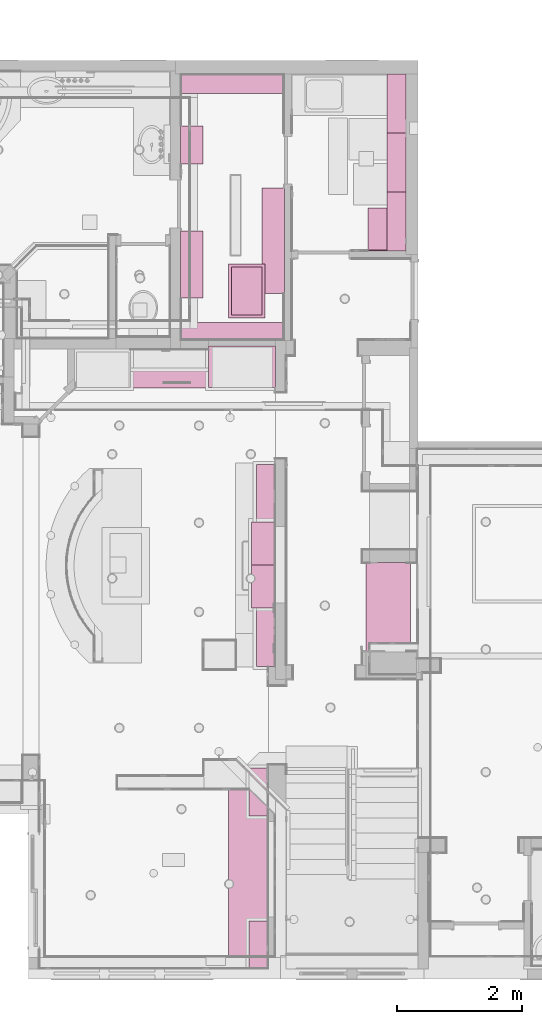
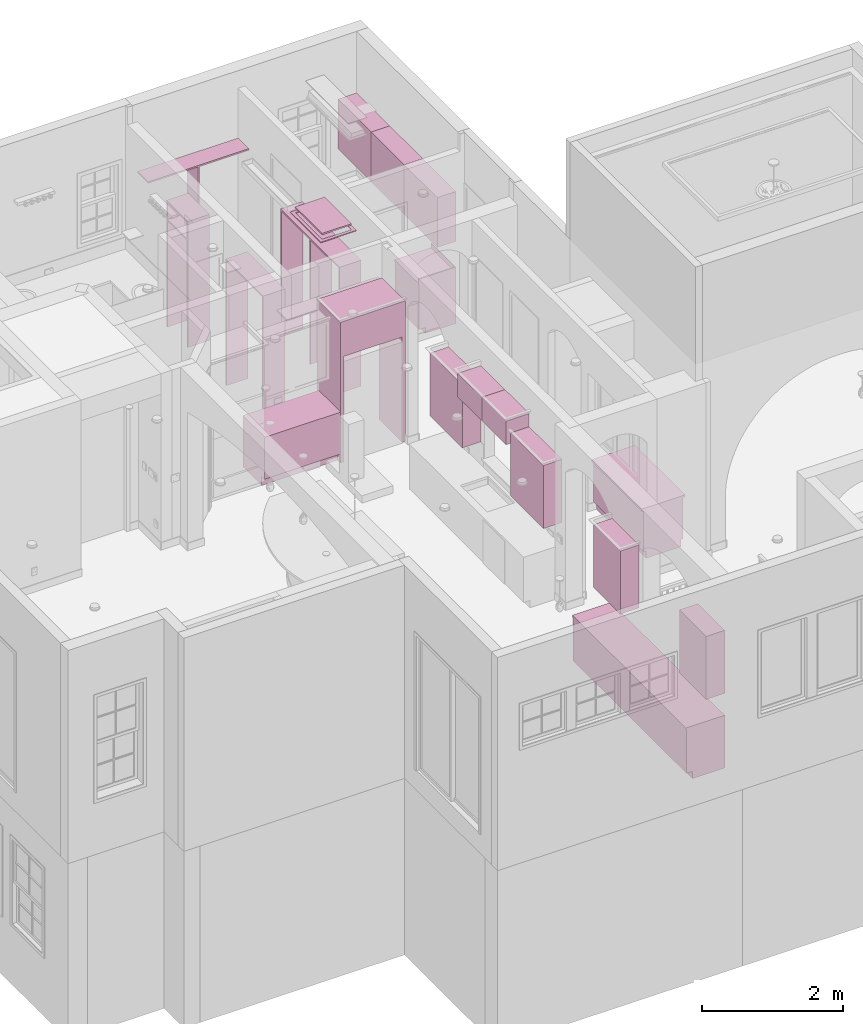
# One storey, part 56 of 81: 20 furnishings.
"""IFC2X3 building model written with IfcOpenShell, lengths in feet."""

from ifc_helpers import new_model, entity, si_unit, converted_unit, derived_unit, direction, frame, frame_2d, origin, origin_2d_with_axis, place, context, subcontext, project, spatial, polyline, rectangle, outline, extrude, source, transform, mapped, material, type_object, type_shapes, element, save


model = new_model("IFC2X3")

# Units and contexts
model_context = context("Model", 3, precision=0.0001, world=origin(), true_north=direction((6.12303176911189e-17, 1.0)))
body_context = subcontext(model_context, "Body", "Model", "MODEL_VIEW")
ifc_project = project(units=[converted_unit("LENGTHUNIT", "FOOT", entity("IfcRatioMeasure", 0.3048), si_unit("LENGTHUNIT", "METRE"), dimensions=[1, 0, 0, 0, 0, 0, 0]), converted_unit("AREAUNIT", "SQUARE FOOT", entity("IfcRatioMeasure", 0.09290304), si_unit("AREAUNIT", "SQUARE_METRE"), dimensions=[2, 0, 0, 0, 0, 0, 0]), converted_unit("VOLUMEUNIT", "CUBIC FOOT", entity("IfcRatioMeasure", 0.028316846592), si_unit("VOLUMEUNIT", "CUBIC_METRE"), dimensions=[3, 0, 0, 0, 0, 0, 0]), converted_unit("PLANEANGLEUNIT", "DEGREE", entity("IfcRatioMeasure", 0.0174532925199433), si_unit("PLANEANGLEUNIT", "RADIAN"), dimensions=[0, 0, 0, 0, 0, 0, 0]), si_unit("MASSUNIT", "GRAM", prefix="KILO"), derived_unit("MASSDENSITYUNIT", [(si_unit("MASSUNIT", "GRAM", prefix="KILO"), 1), (si_unit("LENGTHUNIT", "METRE"), -3)]), derived_unit("MOMENTOFINERTIAUNIT", [(si_unit("LENGTHUNIT", "METRE"), 4)]), si_unit("TIMEUNIT", "SECOND"), si_unit("FREQUENCYUNIT", "HERTZ"), si_unit("THERMODYNAMICTEMPERATUREUNIT", "DEGREE_CELSIUS"), derived_unit("THERMALTRANSMITTANCEUNIT", [(si_unit("MASSUNIT", "GRAM", prefix="KILO"), 1), (si_unit("THERMODYNAMICTEMPERATUREUNIT", "KELVIN"), -1), (si_unit("TIMEUNIT", "SECOND"), -3)]), derived_unit("VOLUMETRICFLOWRATEUNIT", [(si_unit("LENGTHUNIT", "METRE"), 3), (si_unit("TIMEUNIT", "SECOND"), -1)]), si_unit("ELECTRICCURRENTUNIT", "AMPERE"), si_unit("ELECTRICVOLTAGEUNIT", "VOLT"), si_unit("POWERUNIT", "WATT"), si_unit("FORCEUNIT", "NEWTON"), si_unit("ILLUMINANCEUNIT", "LUX"), si_unit("LUMINOUSFLUXUNIT", "LUMEN"), si_unit("LUMINOUSINTENSITYUNIT", "CANDELA"), derived_unit("USERDEFINED", [(si_unit("MASSUNIT", "GRAM", prefix="KILO"), -1), (si_unit("LENGTHUNIT", "METRE"), -2), (si_unit("TIMEUNIT", "SECOND"), 3), (si_unit("LUMINOUSFLUXUNIT", "LUMEN"), 1)]), derived_unit("LINEARVELOCITYUNIT", [(si_unit("LENGTHUNIT", "METRE"), 1), (si_unit("TIMEUNIT", "SECOND"), -1)]), si_unit("PRESSUREUNIT", "PASCAL"), derived_unit("USERDEFINED", [(si_unit("LENGTHUNIT", "METRE"), -2), (si_unit("MASSUNIT", "GRAM", prefix="KILO"), 1), (si_unit("TIMEUNIT", "SECOND"), -2)]), derived_unit("LINEARFORCEUNIT", [(si_unit("MASSUNIT", "GRAM", prefix="KILO"), 1), (si_unit("LENGTHUNIT", "METRE"), 1), (si_unit("TIMEUNIT", "SECOND"), -2), (si_unit("LENGTHUNIT", "METRE"), -1)]), derived_unit("PLANARFORCEUNIT", [(si_unit("MASSUNIT", "GRAM", prefix="KILO"), 1), (si_unit("LENGTHUNIT", "METRE"), 1), (si_unit("TIMEUNIT", "SECOND"), -2), (si_unit("LENGTHUNIT", "METRE"), -2)])], contexts=[model_context])

# Site, building, storey
site_placement = place(None, origin())
site = spatial("IfcSite", under=ifc_project, at=site_placement, Name="Default", CompositionType="ELEMENT")
building_placement = place(site_placement, origin())
building = spatial("IfcBuilding", under=site, at=building_placement, CompositionType="ELEMENT")
storey_placement = place(building_placement, origin())
storey = spatial("IfcBuildingStorey", under=building, at=storey_placement, Name="First floor", CompositionType="ELEMENT", Elevation=0.0)

# Furnishings
ifc_material = material(Name="Default New Material")
furniture_type_1 = type_object("IfcFurnitureType", Name="Casework 7:Casework 7", material=ifc_material)
shared_shape_1 = source(origin(), body_context, "Body", "SweptSolid", [
    extrude(outline(polyline([(-1.77777777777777, -1.26388888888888), (1.09722222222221, -1.26388888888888), (1.09722222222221, 0.465277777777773), (0.680555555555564, 0.465277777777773), (0.680555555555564, 0.798611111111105), (-1.77777777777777, 0.798611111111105), (-1.77777777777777, -1.26388888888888)])), frame((11.2777777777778, 0.541666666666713, 11.7638888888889), z_axis=(0.0, 1.0, 0.0), x_axis=(0.0, 0.0, -1.0)), (0.0, 0.0, 1.0), 10.5625),
    extrude(rectangle(XDim=10.5833333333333, YDim=2.08333333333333, at=origin_2d_with_axis()), frame((11.5, 5.83333333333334, 13.5416666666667), z_axis=(0.0, 0.0, 1.0), x_axis=(0.0, -1.0, 0.0)), (0.0, 0.0, 1.0), 0.125),
])
type_shapes(furniture_type_1, [shared_shape_1])
furnishing_1_placement = place(storey_placement, origin())
element("IfcFurnishingElement", 1, at=furnishing_1_placement, inside=storey, type_object=furniture_type_1, material=ifc_material, Name="Casework 7:Casework 7", ObjectType="Casework 7:Casework 7", context=body_context, shape_type="MappedRepresentation", body=[
    mapped(shared_shape_1, transform((0.0, 0.0, 0.0), scale=1.0)),
])
furniture_type_2 = type_object("IfcFurnitureType", Name="Casework 8:Casework 8", material=ifc_material)
shared_shape_2 = source(origin(), body_context, "Body", "SweptSolid", [
    extrude(outline(polyline([(-1.75, -4.49609375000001), (1.75, -4.49609375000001), (1.75, 3.49869791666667), (1.58333333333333, 3.49869791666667), (1.58333333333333, -2.50130208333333), (-1.58333333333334, -2.50130208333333), (-1.58333333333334, 3.49869791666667), (-1.75, 3.49869791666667), (-1.75, -4.49609375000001)])), frame((11.1666666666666, 30.9583333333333, 14.1653645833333), z_axis=(0.0, 1.0, 0.0), x_axis=(1.0, 0.0, 0.0)), (0.0, 0.0, 1.0), 2.16666666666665),
])
type_shapes(furniture_type_2, [shared_shape_2])
furnishing_2_placement = place(storey_placement, origin())
element("IfcFurnishingElement", 2, at=furnishing_2_placement, inside=storey, type_object=furniture_type_2, material=ifc_material, Name="Casework 8:Casework 8", ObjectType="Casework 8:Casework 8", context=body_context, shape_type="MappedRepresentation", body=[
    mapped(shared_shape_2, transform((0.0, 0.0, 0.0), scale=1.0)),
])
furniture_type_3 = type_object("IfcFurnitureType", Name="Casework 10:Casework 10", material=ifc_material)
shared_shape_3 = source(origin(), body_context, "Body", "SweptSolid", [
    extrude(outline(polyline([(1.11458333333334, -0.937499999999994), (1.53645833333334, -0.937499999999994), (1.53645833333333, 0.937500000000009), (1.11458333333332, 0.937500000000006), (1.11458333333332, 1.06250000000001), (-1.21354166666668, 1.06249999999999), (-1.21354166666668, 1.16666666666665), (-1.33854166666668, 1.16666666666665), (-1.33854166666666, -1.16666666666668), (-1.21354166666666, -1.16666666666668), (-1.21354166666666, -1.06250000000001), (1.11458333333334, -1.06249999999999), (1.11458333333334, -0.937499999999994)])), frame((18.8125, 17.1246548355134, 12.203125), z_axis=(0.0, 1.0, 0.0), x_axis=(0.0, 0.0, -1.0)), (0.0, 0.0, 1.0), 4.66666666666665),
])
type_shapes(furniture_type_3, [shared_shape_3])
furnishing_3_placement = place(storey_placement, origin())
element("IfcFurnishingElement", 3, at=furnishing_3_placement, inside=storey, type_object=furniture_type_3, material=ifc_material, Name="Casework 10:Casework 10", ObjectType="Casework 10:Casework 10", context=body_context, shape_type="MappedRepresentation", body=[
    mapped(shared_shape_3, transform((0.0, 0.0, 0.0), scale=1.0)),
])
furniture_type_4 = type_object("IfcFurnitureType", Name="Casework 12:Casework 12", material=ifc_material)
shared_shape_4 = source(origin(), body_context, "Body", "SweptSolid", [
    extrude(outline(polyline([(-1.31944444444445, -0.763888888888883), (0.680555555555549, -0.763888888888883), (0.680555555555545, 1.48611111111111), (0.638888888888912, 1.48611111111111), (0.638888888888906, -0.722222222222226), (-1.31944444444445, -0.722222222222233), (-1.31944444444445, -0.763888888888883)])), frame((19.0694444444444, 38.8468770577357, 13.625)), (0.0, 0.0, 1.0), 0.25),
    extrude(rectangle(XDim=2.24999999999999, YDim=2.0, at=frame_2d((-3.5527136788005e-15, -3.5527136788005e-15), x_axis=(1.0, 0.0))), frame((18.75, 39.2079881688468, 13.5), z_axis=(0.0, 0.0, 1.0), x_axis=(0.0, -1.0, 0.0)), (0.0, 0.0, 1.0), 0.125),
    extrude(outline(polyline([(-1.20833333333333, -1.05555555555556), (0.4375, -1.05555555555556), (0.4375, -0.722222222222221), (0.770833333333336, -0.722222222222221), (0.770833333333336, 1.77777777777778), (-1.20833333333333, 1.77777777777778), (-1.20833333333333, -1.05555555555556)])), frame((18.5416666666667, 38.0829881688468, 11.7222222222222), z_axis=(0.0, 1.0, 0.0), x_axis=(-1.0, 0.0, 0.0)), (0.0, 0.0, 1.0), 2.24999999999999),
])
type_shapes(furniture_type_4, [shared_shape_4])
furnishing_4_placement = place(storey_placement, origin())
element("IfcFurnishingElement", 4, at=furnishing_4_placement, inside=storey, type_object=furniture_type_4, material=ifc_material, Name="Casework 12:Casework 12", ObjectType="Casework 12:Casework 12", context=body_context, shape_type="MappedRepresentation", body=[
    mapped(shared_shape_4, transform((0.0, 0.0, 0.0), scale=1.0)),
])
furniture_type_5 = type_object("IfcFurnitureType", Name="Casework_2:Casework_2", material=ifc_material)
shared_shape_5 = source(origin(), body_context, "Body", "SweptSolid", [
    extrude(rectangle(XDim=0.999999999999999, YDim=3.08333333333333, at=origin_2d_with_axis()), frame((0.0, 0.499999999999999, 0.0), z_axis=(0.0, 0.0, 1.0), x_axis=(0.0, 1.0, 0.0)), (0.0, 0.0, 1.0), 2.83333333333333),
])
type_shapes(furniture_type_5, [shared_shape_5])
for number, where, z_axis, x_axis, name in (
    (5, (19.75, 39.6246548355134, 15.3333333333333), (0.0, 0.0, 1.0), (0.0, 1.0, 0.0), "Casework_2:Casework_2"),
    (6, (19.75, 42.7079881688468, 15.3333333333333), (0.0, 0.0, 1.0), (0.0, 1.0, 0.0), "Casework_2:Casework_2"),
    (7, (19.75, 45.7913215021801, 15.3333333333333), (0.0, 0.0, 1.0), (0.0, 1.0, 0.0), "Casework_2:Casework_2"),
):
    element("IfcFurnishingElement", number, at=place(storey_placement, frame(where, z_axis=z_axis, x_axis=x_axis)), inside=storey, type_object=furniture_type_5, material=ifc_material, Name=name, ObjectType="Casework_2:Casework_2", context=body_context, shape_type="MappedRepresentation", body=[
        mapped(shared_shape_5, transform((0.0, 0.0, 0.0), scale=1.0)),
    ])
furniture_type_6 = type_object("IfcFurnitureType", Name="Casework 14:Casework 14", material=ifc_material)
shared_shape_6 = source(origin(), body_context, "Body", "SweptSolid", [
    extrude(outline(polyline([(-3.60416666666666, -1.7500000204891), (3.56250000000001, -1.7500000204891), (3.56250000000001, -1.66666668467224), (-3.52083333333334, -1.66666668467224), (-3.52083333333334, 1.66666672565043), (3.56250000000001, 1.66666672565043), (3.56250000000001, 1.7499999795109), (-3.60416666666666, 1.7499999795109), (-3.60416666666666, -1.7500000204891)])), frame((7.95833333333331, 37.3746548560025, 14.2291666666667), z_axis=(1.0, 0.0, 0.0), x_axis=(0.0, 0.0, -1.0)), (0.0, 0.0, 1.0), 1.16666666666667),
])
type_shapes(furniture_type_6, [shared_shape_6])
furnishing_5_placement = place(storey_placement, origin())
element("IfcFurnishingElement", 8, at=furnishing_5_placement, inside=storey, type_object=furniture_type_6, material=ifc_material, Name="Casework 14:Casework 14", ObjectType="Casework 14:Casework 14", context=body_context, shape_type="MappedRepresentation", body=[
    mapped(shared_shape_6, transform((0.0, 0.0, 0.0), scale=1.0)),
])
furniture_type_7 = type_object("IfcFurnitureType", Name="Casework 15:Casework 15", material=ifc_material)
shared_shape_7 = source(origin(), body_context, "Body", "SweptSolid", [
    extrude(rectangle(XDim=1.16666666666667, YDim=0.0833333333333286, at=frame_2d((-8.88178419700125e-16, 0.0), x_axis=(1.0, 0.0))), frame((12.7916666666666, 38.6246548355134, 10.6666666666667)), (0.0, 0.0, 1.0), 7.16666666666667),
    extrude(outline(polyline([(-2.75000003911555, -3.60416666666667), (2.74999996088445, -3.60416666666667), (2.74999996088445, 3.5625), (2.66666662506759, 3.5625), (2.66666662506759, -3.52083333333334), (-2.6666665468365, -3.52083333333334), (-2.6666665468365, 3.5625), (-2.75000003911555, 3.5625), (-2.75000003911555, -3.60416666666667)])), frame((12.2083333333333, 38.6246547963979, 14.2291666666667), z_axis=(1.0, 0.0, 0.0), x_axis=(0.0, -1.0, 0.0)), (0.0, 0.0, 1.0), 1.16666666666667),
])
type_shapes(furniture_type_7, [shared_shape_7])
furnishing_6_placement = place(storey_placement, origin())
element("IfcFurnishingElement", 9, at=furnishing_6_placement, inside=storey, type_object=furniture_type_7, material=ifc_material, Name="Casework 15:Casework 15", ObjectType="Casework 15:Casework 15", context=body_context, shape_type="MappedRepresentation", body=[
    mapped(shared_shape_7, transform((0.0, 0.0, 0.0), scale=1.0)),
])
furniture_type_8 = type_object("IfcFurnitureType", Name="Generic Models 26:Generic Models 26", material=ifc_material)
shared_shape_8 = source(origin(), body_context, "Body", "SweptSolid", [
    extrude(rectangle(XDim=5.41666666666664, YDim=0.916321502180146, at=frame_2d((4.44089209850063e-16, 0.0), x_axis=(1.0, 0.0))), frame((10.6666666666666, 33.8748274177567, 17.75)), (0.0, 0.0, 1.0), 0.0833333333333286),
])
type_shapes(furniture_type_8, [shared_shape_8])
furnishing_7_placement = place(storey_placement, origin())
element("IfcFurnishingElement", 10, at=furnishing_7_placement, inside=storey, type_object=furniture_type_8, material=ifc_material, Name="Generic Models 26:Generic Models 26", ObjectType="Generic Models 26:Generic Models 26", context=body_context, shape_type="MappedRepresentation", body=[
    mapped(shared_shape_8, transform((0.0, 0.0, 0.0), scale=1.0)),
])
furniture_type_9 = type_object("IfcFurnitureType", Name="Generic Models 27:Generic Models 26", material=ifc_material)
shared_shape_9 = source(origin(), body_context, "Body", "SweptSolid", [
    extrude(outline(polyline([(-5.33333333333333, 0.0416666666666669), (-5.33333333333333, -0.0416666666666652), (1.75000000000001, -0.0416666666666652), (1.75000000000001, -2.70833333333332), (1.83333333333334, -2.70833333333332), (1.83333333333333, 2.70833333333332), (1.75, 2.70833333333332), (1.75000000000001, 0.0416666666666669), (-5.33333333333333, 0.0416666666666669)])), frame((10.6666666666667, 46.3329881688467, 16.0), z_axis=(0.0, -1.0, 0.0), x_axis=(0.0, 0.0, 1.0)), (0.0, 0.0, -1.0), 1.00000000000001),
])
type_shapes(furniture_type_9, [shared_shape_9])
furnishing_8_placement = place(storey_placement, origin())
element("IfcFurnishingElement", 11, at=furnishing_8_placement, inside=storey, type_object=furniture_type_9, material=ifc_material, Name="Generic Models 27:Generic Models 26", ObjectType="Generic Models 27:Generic Models 26", context=body_context, shape_type="MappedRepresentation", body=[
    mapped(shared_shape_9, transform((0.0, 0.0, 0.0), scale=1.0)),
])
furniture_type_10 = type_object("IfcFurnitureType", Name="Casework 16:Casework 16", material=ifc_material)
shared_shape_10 = source(origin(), body_context, "Body", "SweptSolid", [
    extrude(outline(polyline([(-3.86458333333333, -0.999999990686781), (3.30208333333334, -0.999999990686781), (3.30208333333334, -0.916666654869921), (-2.73958333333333, -0.916666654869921), (-2.73958333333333, 0.916666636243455), (3.30208333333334, 0.916666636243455), (3.30208333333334, 1.00000000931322), (-3.86458333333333, 1.00000000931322), (-3.86458333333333, -0.999999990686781)]), holes=[polyline([(-3.78125, 0.916666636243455), (-2.82291666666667, 0.916666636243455), (-2.82291666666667, -0.916666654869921), (-3.78125, -0.916666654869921), (-3.78125, 0.916666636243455)])]), frame((7.95833333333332, 43.6246548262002, 13.96875), z_axis=(1.0, 0.0, 0.0), x_axis=(0.0, 0.0, -1.0)), (0.0, 0.0, 1.0), 1.16666666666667),
])
type_shapes(furniture_type_10, [shared_shape_10])
furnishing_9_placement = place(storey_placement, origin())
element("IfcFurnishingElement", 12, at=furnishing_9_placement, inside=storey, type_object=furniture_type_10, material=ifc_material, Name="Casework 16:Casework 16", ObjectType="Casework 16:Casework 16", context=body_context, shape_type="MappedRepresentation", body=[
    mapped(shared_shape_10, transform((0.0, 0.0, 0.0), scale=1.0)),
])
furniture_type_11 = type_object("IfcFurnitureType", Name="Casework_2:Casework_2", material=ifc_material)
shared_shape_11 = source(origin(), body_context, "Body", "SweptSolid", [
    extrude(rectangle(XDim=0.999999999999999, YDim=2.5, at=origin_2d_with_axis()), frame((0.0, 0.499999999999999, 0.0), z_axis=(0.0, 0.0, 1.0), x_axis=(0.0, 1.0, 0.0)), (0.0, 0.0, 1.0), 3.58333333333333),
])
type_shapes(furniture_type_11, [shared_shape_11])
for number, where, z_axis, x_axis, name in (
    (13, (12.5416666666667, 9.79132150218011, 14.9166666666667), (0.0, 0.0, 1.0), (0.0, 1.0, 0.0), "Casework_2:Casework_2"),
    (14, (12.5416666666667, 1.7916666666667, 14.9166666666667), (0.0, 0.0, 1.0), (0.0, 1.0, 0.0), "Casework_2:Casework_2"),
):
    element("IfcFurnishingElement", number, at=place(storey_placement, frame(where, z_axis=z_axis, x_axis=x_axis)), inside=storey, type_object=furniture_type_11, material=ifc_material, Name=name, ObjectType="Casework_2:Casework_2", context=body_context, shape_type="MappedRepresentation", body=[
        mapped(shared_shape_11, transform((0.0, 0.0, 0.0), scale=1.0)),
    ])
furniture_type_12 = type_object("IfcFurnitureType", Name="Casework_2:Casework_2", material=ifc_material)
shared_shape_12 = source(origin(), body_context, "Body", "SweptSolid", [
    extrude(rectangle(XDim=0.999999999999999, YDim=3.0, at=origin_2d_with_axis()), frame((0.0, 0.499999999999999, 0.0), z_axis=(0.0, 0.0, 1.0), x_axis=(0.0, 1.0, 0.0)), (0.0, 0.0, 1.0), 3.58333333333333),
])
type_shapes(furniture_type_12, [shared_shape_12])
furnishing_10_placement = place(storey_placement, frame((12.9166666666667, 25.4163215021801, 14.9166666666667), z_axis=(0.0, 0.0, 1.0), x_axis=(0.0, 1.0, 0.0)))
element("IfcFurnishingElement", 15, at=furnishing_10_placement, inside=storey, type_object=furniture_type_12, material=ifc_material, Name="Casework_2:Casework_2", ObjectType="Casework_2:Casework_2", context=body_context, shape_type="MappedRepresentation", body=[
    mapped(shared_shape_12, transform((0.0, 0.0, 0.0), scale=1.0)),
])
furniture_type_13 = type_object("IfcFurnitureType", Name="Casework_2:Casework_2", material=ifc_material)
shared_shape_13 = source(origin(), body_context, "Body", "SweptSolid", [
    extrude(rectangle(XDim=1.25, YDim=2.25, at=origin_2d_with_axis()), frame((0.0, 0.624999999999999, 0.0), z_axis=(0.0, 0.0, 1.0), x_axis=(0.0, 1.0, 0.0)), (0.0, 0.0, 1.0), 1.33333333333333),
])
type_shapes(furniture_type_13, [shared_shape_13])
for number, where, z_axis, x_axis, name in (
    (16, (12.9166666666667, 22.7913215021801, 17.9166666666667), (0.0, 0.0, 1.0), (0.0, 1.0, 0.0), "Casework_2:Casework_2"),
    (17, (12.9166666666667, 20.5413215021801, 17.9166666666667), (0.0, 0.0, 1.0), (0.0, 1.0, 0.0), "Casework_2:Casework_2"),
):
    element("IfcFurnishingElement", number, at=place(storey_placement, frame(where, z_axis=z_axis, x_axis=x_axis)), inside=storey, type_object=furniture_type_13, material=ifc_material, Name=name, ObjectType="Casework_2:Casework_2", context=body_context, shape_type="MappedRepresentation", body=[
        mapped(shared_shape_13, transform((0.0, 0.0, 0.0), scale=1.0)),
    ])
furniture_type_14 = type_object("IfcFurnitureType", Name="Casework_2:Casework_2", material=ifc_material)
shared_shape_14 = source(origin(), body_context, "Body", "SweptSolid", [
    extrude(rectangle(XDim=0.999999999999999, YDim=3.0625, at=origin_2d_with_axis()), frame((0.0, 0.499999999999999, 0.0), z_axis=(0.0, 0.0, 1.0), x_axis=(0.0, 1.0, 0.0)), (0.0, 0.0, 1.0), 3.58333333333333),
])
type_shapes(furniture_type_14, [shared_shape_14])
furnishing_11_placement = place(storey_placement, frame((12.9166666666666, 17.8850715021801, 14.9166666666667), z_axis=(0.0, 0.0, 1.0), x_axis=(0.0, 1.0, 0.0)))
element("IfcFurnishingElement", 18, at=furnishing_11_placement, inside=storey, type_object=furniture_type_14, material=ifc_material, Name="Casework_2:Casework_2", ObjectType="Casework_2:Casework_2", context=body_context, shape_type="MappedRepresentation", body=[
    mapped(shared_shape_14, transform((0.0, 0.0, 0.0), scale=1.0)),
])
furniture_type_15 = type_object("IfcFurnitureType", Name="Casework 18:Casework 18", material=ifc_material)
shared_shape_15 = source(origin(), body_context, "Body", "SweptSolid", [
    extrude(outline(polyline([(-1.72048611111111, -0.749999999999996), (0.607638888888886, -0.749999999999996), (0.607638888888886, -0.499999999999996), (1.11284722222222, -0.499999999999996), (1.11284722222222, 1.24999999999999), (-1.72048611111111, 1.24999999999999), (-1.72048611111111, -0.749999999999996)])), frame((5.3329961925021, 31.7083333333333, 11.7795138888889), z_axis=(1.0, 0.0, 0.0), x_axis=(0.0, 0.0, -1.0)), (0.0, 0.0, 1.0), 4.08367047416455),
    extrude(rectangle(XDim=2.04166666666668, YDim=4.08367047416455, at=frame_2d((-3.5527136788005e-15, 0.0), x_axis=(1.0, 0.0))), frame((7.37483142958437, 31.9375, 13.5), z_axis=(0.0, 0.0, 1.0), x_axis=(0.0, 1.0, 0.0)), (0.0, 0.0, 1.0), 0.0833333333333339),
])
type_shapes(furniture_type_15, [shared_shape_15])
furnishing_12_placement = place(storey_placement, origin())
element("IfcFurnishingElement", 19, at=furnishing_12_placement, inside=storey, type_object=furniture_type_15, material=ifc_material, Name="Casework 18:Casework 18", ObjectType="Casework 18:Casework 18", context=body_context, shape_type="MappedRepresentation", body=[
    mapped(shared_shape_15, transform((0.0, 0.0, 0.0), scale=1.0)),
])
furniture_type_16 = type_object("IfcFurnitureType", Name="Face Based Case work:2'-6\" X 1'-7\"", material=ifc_material)
shared_shape_16 = source(origin(), body_context, "Body", "SweptSolid", [
    extrude(rectangle(XDim=1.5833333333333, YDim=2.49999999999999, at=origin_2d_with_axis()), frame((0.0, 0.0, -0.333333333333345), z_axis=(0.0, 0.0, 1.0), x_axis=(-1.0, 0.0, 0.0)), (0.0, 0.0, 1.0), 0.0833333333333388),
    extrude(outline(polyline([(-0.958333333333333, -1.41666666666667), (0.958333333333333, -1.41666666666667), (0.958333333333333, 1.41666666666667), (-0.958333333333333, 1.41666666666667), (-0.958333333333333, -1.41666666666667)]), holes=[polyline([(-0.79166666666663, -1.24999999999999), (-0.79166666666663, 1.25), (0.79166666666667, 1.25), (0.79166666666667, -1.24999999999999), (-0.79166666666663, -1.24999999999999)])]), frame((0.0, 0.0, 0.0), z_axis=(0.0, 0.0, 1.0), x_axis=(-1.0, 0.0, 0.0)), (0.0, 0.0, 1.0), 0.0492125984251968),
])
type_shapes(furniture_type_16, [shared_shape_16])
furnishing_13_placement = place(storey_placement, frame((11.4166666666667, 35.9996548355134, 20.6666666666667), z_axis=(0.0, 0.0, -1.0), x_axis=(-1.0, 0.0, 0.0)))
element("IfcFurnishingElement", 20, at=furnishing_13_placement, inside=storey, type_object=furniture_type_16, material=ifc_material, Name="Face Based Case work:2'-6\" X 1'-7\"", ObjectType="Face Based Case work:2'-6\" X 1'-7\"", context=body_context, shape_type="MappedRepresentation", body=[
    mapped(shared_shape_16, transform((0.0, 0.0, 0.0), scale=1.0)),
])

save(model, "model.ifc")
